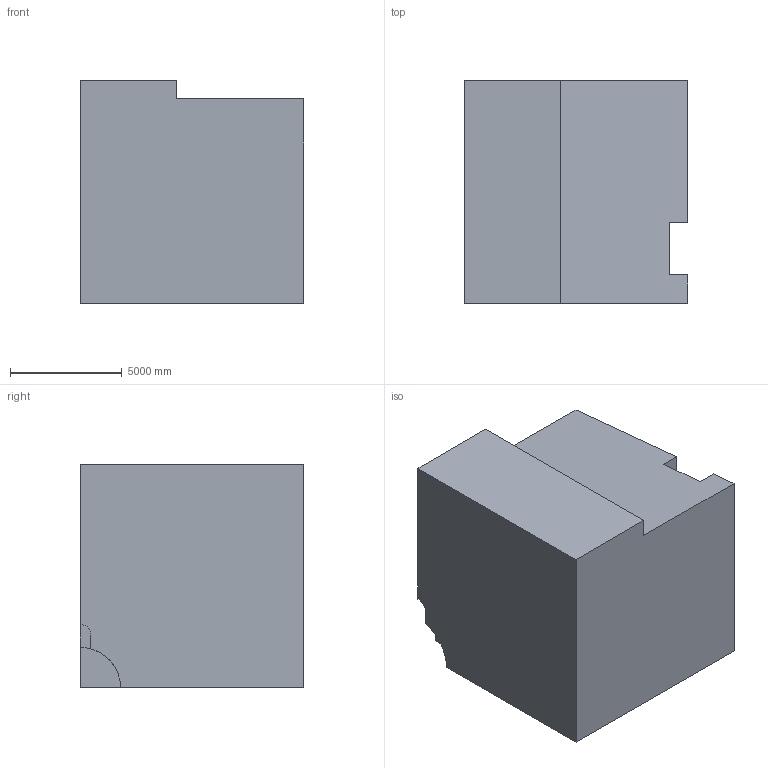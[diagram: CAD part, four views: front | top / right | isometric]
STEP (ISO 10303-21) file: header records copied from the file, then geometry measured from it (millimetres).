
FILE_DESCRIPTION (( 'STEP AP203' ), '1' );
FILE_NAME ('140.STEP', '2022-09-05T15:42:02', ( 'user' ), ( '' ), 'SwSTEP 2.0', 'SolidWorks 2021', '' );
FILE_SCHEMA (( 'CONFIG_CONTROL_DESIGN' ));
Length unit declared in the file: centimetre
Products named in the file (1): 140
Bounding box: 10000 x 10000 x 10000 mm (x, y, z)
Volume: 891265759921.2 mm3; surface area: 618749482.7 mm2
Topology: 1 solids, 1 shells, 21 faces, 57 edges, 38 vertices
Faces by surface type: plane 19, cylinder 2
Entity records: 733 total; most frequent: CARTESIAN_POINT 117, ORIENTED_EDGE 114, DIRECTION 106, EDGE_CURVE 57, LINE 52, VECTOR 52, VERTEX_POINT 38, AXIS2_PLACEMENT_3D 27
